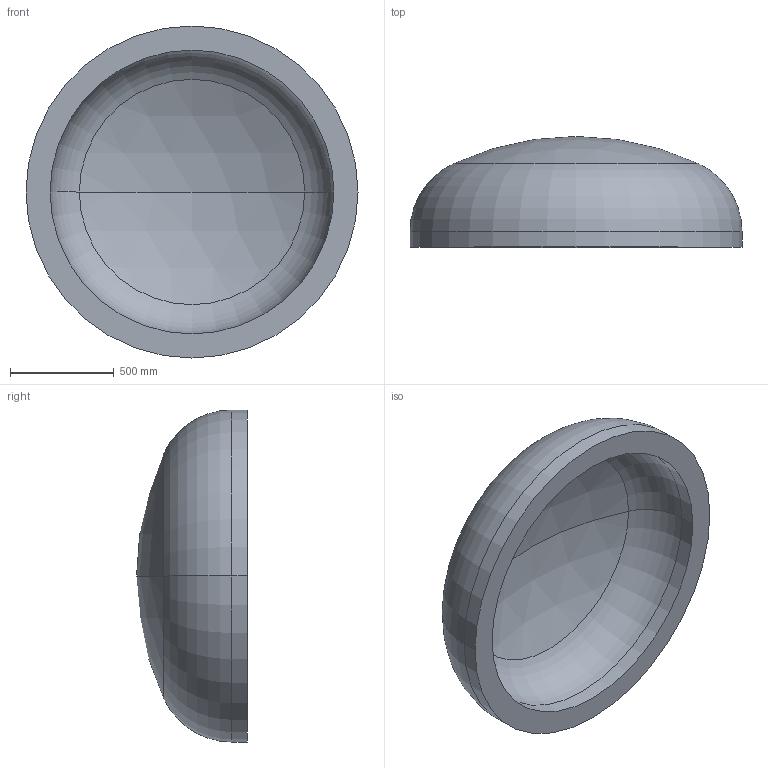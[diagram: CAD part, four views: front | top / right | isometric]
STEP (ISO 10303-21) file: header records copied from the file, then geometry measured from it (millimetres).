
FILE_DESCRIPTION (( 'STEP AP203' ), '1' );
FILE_NAME ('DIN 28013 Korbbogenform_-_Boden DIN 28013 - 1600 x 75 - I - s=116.step', '2016-07-01T11:32:47', ( '' ), ( '' ), 'SwSTEP 2.0', 'SolidWorks 2013', '' );
FILE_SCHEMA (( 'CONFIG_CONTROL_DESIGN' ));
Length unit declared in the file: millimetre
Products named in the file (1): DIN 28013 Korbbogenform_-_Boden DIN 28013 - 1600 x 75 - I - s=116
Bounding box: 1600 x 533.71 x 1600 mm (x, y, z)
Volume: 334984500.2 mm3; surface area: 6344582 mm2
Topology: 1 solids, 1 shells, 13 faces, 24 edges, 14 vertices
Faces by surface type: torus 4, cylinder 4, sphere 4, plane 1
Entity records: 407 total; most frequent: DIRECTION 72, CARTESIAN_POINT 52, ORIENTED_EDGE 48, AXIS2_PLACEMENT_3D 34, EDGE_CURVE 24, CIRCLE 20, VERTEX_POINT 14, EDGE_LOOP 14
